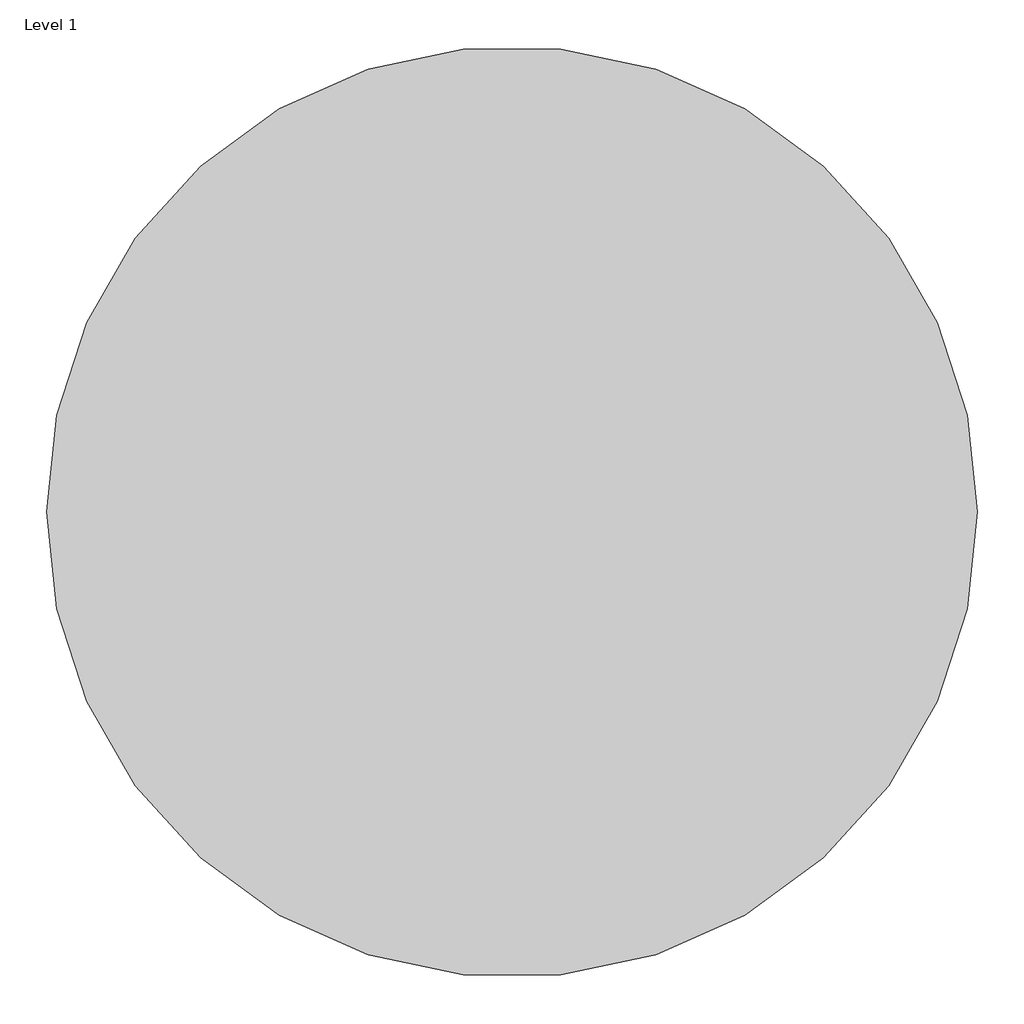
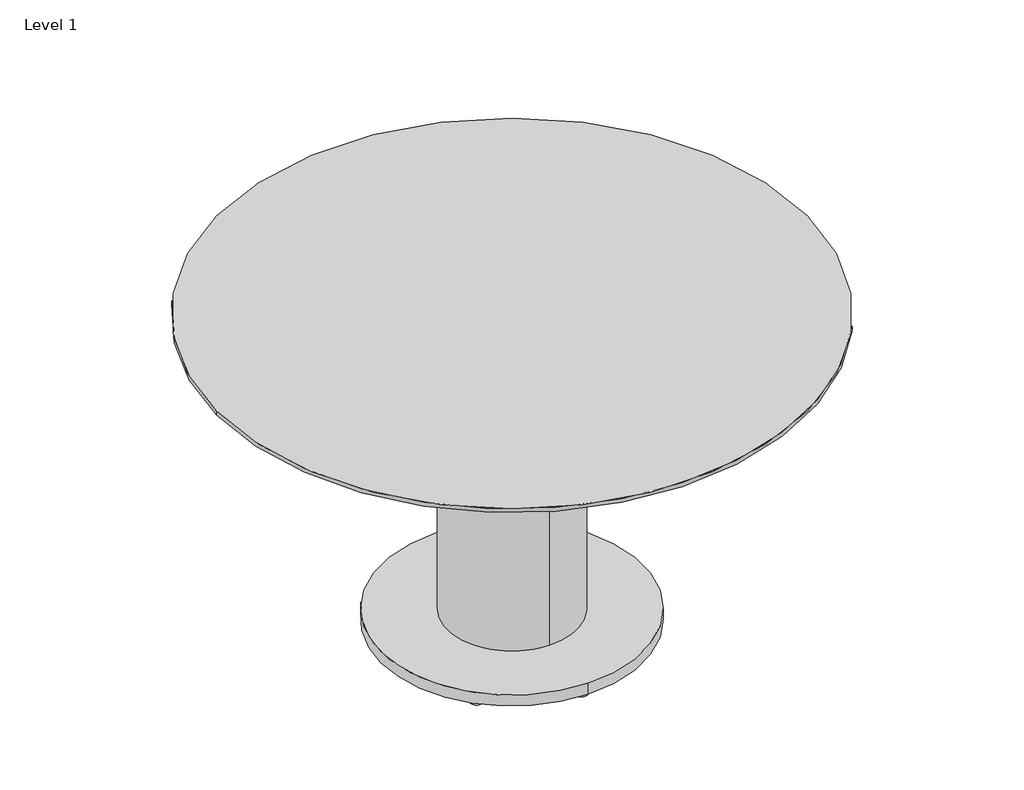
# One storey, incomplete: 2 proxies.
"""IFC4 building model written with IfcOpenShell, lengths in millimetres."""

from ifc_helpers import new_model, si_unit, origin, place, context, project, spatial, transform, mapped, element, save
from components import generic_models_29dc40a3, generic_models_c3073f67

model = new_model("IFC4")

# Units and contexts
model_context = context("Model", 3, world=origin())
ifc_project = project(units=[si_unit("LENGTHUNIT", "METRE", prefix="MILLI")], contexts=[model_context])

# Site, building, storey
site = spatial("IfcSite", under=ifc_project)
building = spatial("IfcBuilding", under=site)
storey = spatial("IfcBuildingStorey", under=building, Name="Level 1", Elevation=0.0)

# Proxies
placement = place(None, origin())
generic_models_shape = generic_models_29dc40a3(model_context)
element("IfcBuildingElementProxy", 1, Name="AERO^TABLE 1_AT0D-1207", ObjectType="AERO^TABLE 1_AT0D-1207", at=placement, inside=storey, context=model_context, shape_type="MappedRepresentation", body=[
    mapped(generic_models_shape, transform((-607.8093214, -577.5633951, -6.35), x_axis=(0.0, -1.0, 0.0), y_axis=(0.0, 0.0, 1.0), z_axis=(-1.0, 0.0, 0.0))),
])
generic_models_2_shape = generic_models_c3073f67(model_context)
element("IfcBuildingElementProxy", 2, Name="AERO^TABLE 1_ATR-5454^TOP PNL06", ObjectType="AERO^TABLE 1_ATR-5454^TOP PNL06", at=placement, inside=storey, context=model_context, shape_type="MappedRepresentation", body=[
    mapped(generic_models_2_shape, transform((0.0, 0.0, 0.0), x_axis=(1.0, 0.0, 0.0), y_axis=(0.0, 0.0, 1.0), z_axis=(0.0, -1.0, 0.0))),
])

save(model, "model.ifc")
